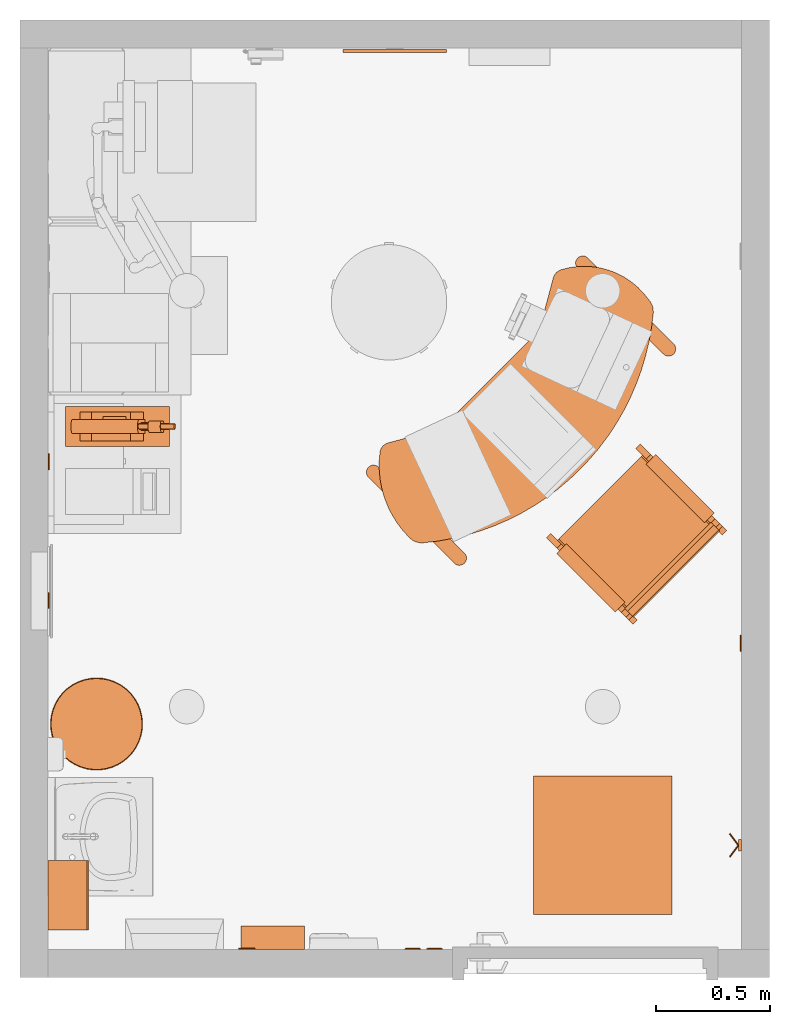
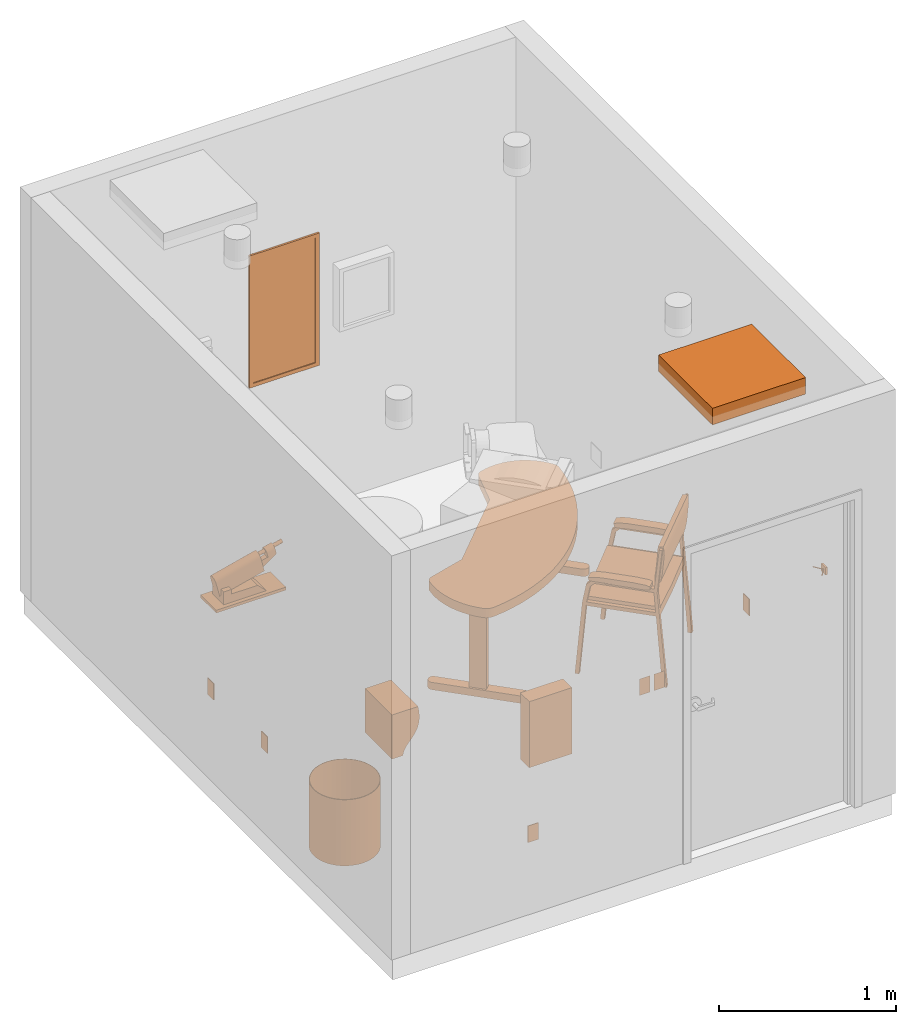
# One storey, part 5 of 12: 15 proxies.
"""IFC2X3 building model written with IfcOpenShell, lengths in feet."""

from ifc_helpers import new_model, entity, si_unit, converted_unit, derived_unit, direction, frame, frame_2d, origin, origin_2d_with_axis, place, context, subcontext, project, spatial, polyline, circle_curve, parameter, trimmed, segment, composite_curve, rectangle, circle, hollow_circle, outline, extrude, faceted_brep, source, transform, mapped, material, material_list, type_object, type_shapes, element, save


model = new_model("IFC2X3")

# Units and contexts
model_context = context("Model", 3, precision=0.0001, world=origin(), true_north=direction((6.12303176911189e-17, 1.0)))
body_context = subcontext(model_context, "Body", "Model", "MODEL_VIEW")
ifc_project = project(units=[converted_unit("LENGTHUNIT", "FOOT", entity("IfcRatioMeasure", 0.3048), si_unit("LENGTHUNIT", "METRE"), dimensions=[1, 0, 0, 0, 0, 0, 0]), converted_unit("AREAUNIT", "SQUARE FOOT", entity("IfcRatioMeasure", 0.09290304), si_unit("AREAUNIT", "SQUARE_METRE"), dimensions=[2, 0, 0, 0, 0, 0, 0]), converted_unit("VOLUMEUNIT", "CUBIC FOOT", entity("IfcRatioMeasure", 0.028316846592), si_unit("VOLUMEUNIT", "CUBIC_METRE"), dimensions=[3, 0, 0, 0, 0, 0, 0]), converted_unit("PLANEANGLEUNIT", "DEGREE", entity("IfcRatioMeasure", 0.0174532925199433), si_unit("PLANEANGLEUNIT", "RADIAN"), dimensions=[0, 0, 0, 0, 0, 0, 0]), si_unit("MASSUNIT", "GRAM", prefix="KILO"), derived_unit("MASSDENSITYUNIT", [(si_unit("MASSUNIT", "GRAM", prefix="KILO"), 1), (si_unit("LENGTHUNIT", "METRE"), -3)]), si_unit("TIMEUNIT", "SECOND"), si_unit("FREQUENCYUNIT", "HERTZ"), si_unit("THERMODYNAMICTEMPERATUREUNIT", "DEGREE_CELSIUS"), derived_unit("THERMALTRANSMITTANCEUNIT", [(si_unit("MASSUNIT", "GRAM", prefix="KILO"), 1), (si_unit("THERMODYNAMICTEMPERATUREUNIT", "KELVIN"), -1), (si_unit("TIMEUNIT", "SECOND"), -3)]), derived_unit("VOLUMETRICFLOWRATEUNIT", [(si_unit("LENGTHUNIT", "METRE"), 3), (si_unit("TIMEUNIT", "SECOND"), -1)]), si_unit("ELECTRICCURRENTUNIT", "AMPERE"), si_unit("ELECTRICVOLTAGEUNIT", "VOLT"), si_unit("POWERUNIT", "WATT"), si_unit("FORCEUNIT", "NEWTON"), si_unit("ILLUMINANCEUNIT", "LUX"), si_unit("LUMINOUSFLUXUNIT", "LUMEN"), si_unit("LUMINOUSINTENSITYUNIT", "CANDELA"), derived_unit("USERDEFINED", [(si_unit("MASSUNIT", "GRAM", prefix="KILO"), -1), (si_unit("LENGTHUNIT", "METRE"), -2), (si_unit("TIMEUNIT", "SECOND"), 3), (si_unit("LUMINOUSFLUXUNIT", "LUMEN"), 1)]), derived_unit("LINEARVELOCITYUNIT", [(si_unit("LENGTHUNIT", "METRE"), 1), (si_unit("TIMEUNIT", "SECOND"), -1)]), si_unit("PRESSUREUNIT", "PASCAL"), derived_unit("USERDEFINED", [(si_unit("LENGTHUNIT", "METRE"), -2), (si_unit("MASSUNIT", "GRAM", prefix="KILO"), 1), (si_unit("TIMEUNIT", "SECOND"), -2)])], contexts=[model_context])

# Site, building, storey, space
site_placement = place(None, origin())
site = spatial("IfcSite", under=ifc_project, at=site_placement, Name="Default", CompositionType="ELEMENT")
building_placement = place(site_placement, origin())
building = spatial("IfcBuilding", under=site, at=building_placement, Name="EYE CLINIC:  OPTHALMOLOGY AND OPTOMETRY SERVICES (Ch. 233)", CompositionType="ELEMENT")
storey_placement = place(building_placement, origin())
storey = spatial("IfcBuildingStorey", under=building, at=storey_placement, Name="DATUM", CompositionType="ELEMENT", Elevation=0.0)
space_placement = place(storey_placement, origin())
space = spatial("IfcSpace", under=storey, at=space_placement, Name="(OPPT2)", CompositionType="ELEMENT", InteriorOrExteriorSpace="INTERNAL")

# Proxies
building_element_proxy_type_1 = type_object("IfcBuildingElementProxyType", Name="A5145 - Hook, Garment, Double", PredefinedType="NOTDEFINED")
shared_shape_1 = source(origin(), body_context, "Body", "SweptSolid", [
    extrude(circle(Radius=0.0105952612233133, at=frame_2d((-1.64551454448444e-31, -4.16333634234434e-17), x_axis=(1.0, 0.0))), frame((-0.169086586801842, -0.168481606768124, 0.0833333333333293), z_axis=(0.799999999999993, 0.60000000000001, 0.0), x_axis=(0.60000000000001, -0.799999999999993, 0.0)), (0.0, 0.0, 1.0), 0.211358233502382),
    extrude(circle(Radius=0.0105952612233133, at=frame_2d((5.2041704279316e-19, 2.77555756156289e-17), x_axis=(1.0, 0.0))), frame((0.0, -0.0416666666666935, 0.083333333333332), z_axis=(0.799999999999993, -0.60000000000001, 0.0), x_axis=(-0.60000000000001, -0.799999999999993, 0.0)), (0.0, 0.0, 1.0), 0.211358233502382),
    extrude(rectangle(XDim=0.0416666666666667, YDim=0.166666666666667, at=origin_2d_with_axis()), frame((0.0, -0.0208333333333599, 0.0), z_axis=(0.0, 0.0, 1.0), x_axis=(0.0, 1.0, 0.0)), (0.0, 0.0, 1.0), 0.166666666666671),
])
type_shapes(building_element_proxy_type_1, [shared_shape_1])
proxy_1_placement = place(space_placement, frame((163.639769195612, 23.3076256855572, 4.0), z_axis=(0.0, 0.0, 1.0), x_axis=(0.0, -1.0, 0.0)))
element("IfcBuildingElementProxy", 1, at=proxy_1_placement, inside=space, type_object=building_element_proxy_type_1, Name="A5145 - Hook, Garment, Double:A5145 - Hook, Garment, Double", ObjectType="A5145 - Hook, Garment, Double", context=body_context, shape_type="MappedRepresentation", body=[
    mapped(shared_shape_1, transform((0.0, 0.0, 0.0), scale=1.0)),
])
building_element_proxy_type_2 = type_object("IfcBuildingElementProxyType", Name="24\" x 24\"", PredefinedType="NOTDEFINED")
shared_shape_2 = source(origin(), body_context, "Body", "SweptSolid", [
    extrude(rectangle(XDim=2.0, YDim=2.0, at=origin_2d_with_axis()), frame((0.0, 0.0, 8.0)), (0.0, 0.0, 1.0), 0.375),
])
type_shapes(building_element_proxy_type_2, [shared_shape_2])
proxy_2_placement = place(space_placement, frame((161.639769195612, 23.3076256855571, 1.0)))
element("IfcBuildingElementProxy", 2, at=proxy_2_placement, inside=space, type_object=building_element_proxy_type_2, Name="Return Register:24\" x 24\"", ObjectType="24\" x 24\"", context=body_context, shape_type="MappedRepresentation", body=[
    mapped(shared_shape_2, transform((0.0, 0.0, 0.0), scale=1.0)),
])
building_element_proxy_type_3 = type_object("IfcBuildingElementProxyType", Name="M5520 - Lensometer", PredefinedType="NOTDEFINED")
shared_shape_3 = source(origin(), body_context, "Body", "SweptSolid", [
    extrude(circle(Radius=0.166666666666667, at=frame_2d((0.0, -2.77555756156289e-16), x_axis=(1.0, 0.0))), frame((0.104166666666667, 0.0416666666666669, 0.4375), z_axis=(1.0, 0.0, 0.0), x_axis=(0.0, 1.0, 0.0)), (0.0, 0.0, 1.0), 0.0439213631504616),
    extrude(circle(Radius=0.0416666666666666, at=frame_2d((1.73472347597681e-18, 1.077244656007e-16), x_axis=(1.0, 0.0))), frame((0.00188577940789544, -0.202289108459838, 0.758268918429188), z_axis=(0.0, -0.970295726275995, 0.241921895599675), x_axis=(1.0, 0.0, 0.0)), (0.0, 0.0, 1.0), 0.643678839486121),
    extrude(outline(composite_curve([segment(polyline([(-0.0572916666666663, -0.083333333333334), (0.0572916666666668, -0.083333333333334)]), True, "CONTINUOUS"), segment(trimmed(circle_curve(frame_2d((0.0572916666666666, 0.0), x_axis=(0.0, -1.0)), 0.0833333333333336), [parameter(360.0)], [parameter(180.0)], True, "PARAMETER"), True, "CONTINUOUS"), segment(polyline([(0.0572916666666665, 0.0833333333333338), (-0.0572916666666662, 0.0833333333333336)]), True, "CONTINUOUS"), segment(polyline([(-0.0572916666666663, 0.0833333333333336), (-0.0572916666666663, -0.083333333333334)]), True, "CONTINUOUS")], self_intersect=False)), frame((0.0, -0.473607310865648, 0.749137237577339), z_axis=(0.0, -0.970295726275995, 0.241921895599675), x_axis=(0.0, 0.241921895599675, 0.970295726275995)), (0.0, 0.0, 1.0), 0.182011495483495),
    extrude(outline(polyline([(-0.166666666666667, -0.0508526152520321), (0.166666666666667, -0.0508526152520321), (0.166666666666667, -0.00918594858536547), (-0.166666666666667, 0.11089117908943), (-0.166666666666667, -0.0508526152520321)])), frame((-0.0576992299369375, -0.51465880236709, 0.647917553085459), z_axis=(1.0, 0.0, 0.0), x_axis=(0.0, -0.970295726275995, 0.241921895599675)), (0.0, 0.0, 1.0), 0.112888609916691),
    extrude(outline(composite_curve([segment(polyline([(-0.166666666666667, -0.104166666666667), (0.166666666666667, -0.104166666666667)]), True, "CONTINUOUS"), segment(trimmed(circle_curve(frame_2d((0.166666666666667, 0.0), x_axis=(0.0, -1.0)), 0.104166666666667), [parameter(360.0)], [parameter(180.0)], True, "PARAMETER"), True, "CONTINUOUS"), segment(polyline([(0.166666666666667, 0.104166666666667), (-0.166666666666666, 0.104166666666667)]), True, "CONTINUOUS"), segment(polyline([(-0.166666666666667, 0.104166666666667), (-0.166666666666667, -0.104166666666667)]), True, "CONTINUOUS")], self_intersect=False)), frame((0.0, 0.607176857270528, 0.366944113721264), z_axis=(0.0, -0.970295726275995, 0.241921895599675), x_axis=(0.0, 0.241921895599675, 0.970295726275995)), (0.0, 0.0, 1.0), 0.989819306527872),
    extrude(outline(polyline([(-0.329861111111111, -0.131944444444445), (-0.163194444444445, -0.131944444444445), (-0.163194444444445, -0.0277777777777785), (0.399305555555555, -0.0277777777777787), (0.586805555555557, 0.159722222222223), (-0.329861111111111, 0.159722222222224), (-0.329861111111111, -0.131944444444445)])), frame((-0.208333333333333, 0.211805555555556, 0.22528558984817), z_axis=(1.0, 0.0, 0.0), x_axis=(0.0, -1.0, 0.0)), (0.0, 0.0, 1.0), 0.416666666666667),
    extrude(rectangle(XDim=0.583333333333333, YDim=1.5, at=origin_2d_with_axis()), frame((0.0, 0.0, 0.0), z_axis=(0.0, 0.0, 1.0), x_axis=(-1.0, 0.0, 0.0)), (0.0, 0.0, 1.0), 0.0655633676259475),
])
type_shapes(building_element_proxy_type_3, [shared_shape_3])
proxy_3_placement = place(space_placement, frame((154.639769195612, 29.3492923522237, 2.99921907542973), z_axis=(0.0, 0.0, 1.0), x_axis=(0.0, 1.0, 0.0)))
element("IfcBuildingElementProxy", 3, at=proxy_3_placement, inside=space, type_object=building_element_proxy_type_3, Name="M5520 - Lensometer:M5520 - Lensometer", ObjectType="M5520 - Lensometer", context=body_context, shape_type="MappedRepresentation", body=[
    mapped(shared_shape_3, transform((0.0, 0.0, 0.0), scale=1.0)),
])
building_element_proxy_type_4 = type_object("IfcBuildingElementProxyType", Name="F0205 - Side Chair with Arms", PredefinedType="NOTDEFINED")
shared_shape_4 = source(origin(), body_context, "Body", "SweptSolid", [
    extrude(outline(polyline([(-0.104007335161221, -0.374369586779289), (-0.027711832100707, -0.374369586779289), (-0.0197350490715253, -0.338348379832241), (0.00592434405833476, -0.182113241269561), (0.0162560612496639, -0.135457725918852), (0.0457826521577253, -0.00212284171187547), (0.0856087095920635, 0.177721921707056), (0.112798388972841, 0.276572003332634), (0.120257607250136, 0.307674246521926), (0.129202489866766, 0.415216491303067), (0.045581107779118, 0.433734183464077), (0.0167028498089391, 0.395704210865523), (-0.0364083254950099, 0.222671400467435), (-0.125070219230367, -0.177704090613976), (-0.13682888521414, -0.27538652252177), (-0.128352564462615, -0.36942248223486), (-0.104007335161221, -0.374369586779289)])), frame((-0.891159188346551, -0.878769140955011, 2.73061112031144), z_axis=(0.0, 1.0, 0.0), x_axis=(0.991475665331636, 0.0, -0.130291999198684)), (0.0, 0.0, 1.0), 1.75919993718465),
    extrude(outline(polyline([(0.0907668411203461, -0.842703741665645), (0.261538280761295, -0.842703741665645), (0.265730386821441, -0.773999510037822), (0.127479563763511, 0.0287496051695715), (-0.0923338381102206, 0.813085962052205), (-0.125373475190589, 0.873420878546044), (-0.279635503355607, 0.800086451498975), (-0.270660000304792, 0.752608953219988), (-0.0560029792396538, -0.0126173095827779), (0.0784907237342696, -0.795927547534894), (0.0907668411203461, -0.842703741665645)])), frame((-0.90556950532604, 0.000822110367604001, 1.62079321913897), z_axis=(1.0, 0.0, 0.0), x_axis=(0.0, -0.219936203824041, -0.975514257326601)), (0.0, 0.0, 1.0), 1.47211210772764),
    extrude(outline(polyline([(-0.552031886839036, -0.234422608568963), (-0.484734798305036, -0.234422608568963), (-0.233837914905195, -0.160903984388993), (0.324339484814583, 0.0422559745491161), (0.453697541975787, 0.101150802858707), (0.564536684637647, 0.176717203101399), (0.51204038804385, 0.250193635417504), (0.420212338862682, 0.216770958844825), (0.254858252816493, 0.145732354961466), (-0.246233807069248, -0.0366502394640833), (-0.436544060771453, -0.0986810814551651), (-0.576302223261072, -0.167740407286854), (-0.552031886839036, -0.234422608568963)])), frame((-0.1510824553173, -1.00916916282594, 2.22827697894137), z_axis=(0.0, 1.0, 0.0), x_axis=(0.939692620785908, 0.0, 0.34202014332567)), (0.0, 0.0, 1.0), 0.198199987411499),
    extrude(outline(polyline([(-0.525375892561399, -0.221085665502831), (-0.458078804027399, -0.221085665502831), (-0.207181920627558, -0.147567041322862), (0.350995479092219, 0.0555929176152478), (0.480353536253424, 0.114487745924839), (0.591192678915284, 0.190054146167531), (0.551062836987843, 0.246221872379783), (0.114629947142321, 0.0873732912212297), (0.281514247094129, 0.159069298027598), (-0.219577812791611, -0.0233132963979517), (-0.409888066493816, -0.0853441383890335), (-0.549646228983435, -0.154403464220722), (-0.525375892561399, -0.221085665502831)])), frame((-0.180692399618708, 0.814330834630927, 2.23169271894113), z_axis=(0.0, 1.0, 0.0), x_axis=(0.939692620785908, 0.0, 0.34202014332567)), (0.0, 0.0, 1.0), 0.196499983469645),
    extrude(outline(polyline([(0.0166377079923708, -0.666422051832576), (0.099971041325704, -0.666422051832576), (-0.0172324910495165, 0.673220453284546), (-0.0993762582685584, 0.659623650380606), (0.0166377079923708, -0.666422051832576)])), frame((-0.182442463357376, -0.954369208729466, 1.61480726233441), z_axis=(0.0, 1.0, 0.0), x_axis=(0.0871557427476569, 0.0, -0.996194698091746)), (0.0, 0.0, 1.0), 0.0833333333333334),
    extrude(outline(polyline([(0.0166377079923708, -0.666422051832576), (0.099971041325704, -0.666422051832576), (-0.0172324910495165, 0.673220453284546), (-0.0993762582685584, 0.659623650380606), (0.0166377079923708, -0.666422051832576)])), frame((-0.182442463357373, 0.867430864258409, 1.61480726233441), z_axis=(0.0, 1.0, 0.0), x_axis=(0.0871557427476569, 0.0, -0.996194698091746)), (0.0, 0.0, 1.0), 0.0833333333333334),
    extrude(outline(polyline([(0.811855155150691, -1.61770011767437), (0.895188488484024, -1.61770011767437), (0.71143329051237, 0.489199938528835), (0.806416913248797, 1.46713632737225), (0.751033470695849, 1.46713632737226), (0.656855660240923, 0.571094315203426), (-0.516612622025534, 0.571094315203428), (-0.653571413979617, 0.441277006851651), (-0.728375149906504, 0.0391907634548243), (-0.871611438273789, -1.61770011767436), (-0.791571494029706, -1.61770011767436), (-0.646611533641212, 0.0391998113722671), (-0.578172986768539, 0.407071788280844), (-0.496044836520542, 0.48919993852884), (0.649788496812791, 0.489199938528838), (0.811855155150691, -1.61770011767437)])), frame((-0.163768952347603, -0.954369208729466, 1.61770011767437), z_axis=(0.0, 1.0, 0.0), x_axis=(-1.0, 0.0, 0.0)), (0.0, 0.0, 1.0), 0.0885709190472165),
    extrude(outline(polyline([(0.811855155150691, -1.61770011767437), (0.895188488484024, -1.61770011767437), (0.71143329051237, 0.489199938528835), (0.806416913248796, 1.46713632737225), (0.751033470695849, 1.46713632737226), (0.656855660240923, 0.571094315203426), (-0.516612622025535, 0.571094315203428), (-0.653571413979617, 0.441277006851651), (-0.728375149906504, 0.0391907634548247), (-0.871611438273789, -1.61770011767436), (-0.791571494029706, -1.61770011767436), (-0.646611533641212, 0.0391998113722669), (-0.578172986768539, 0.407071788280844), (-0.496044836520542, 0.48919993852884), (0.649788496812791, 0.489199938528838), (0.811855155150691, -1.61770011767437)])), frame((-0.1637689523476, 0.867430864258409, 1.61770011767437), z_axis=(0.0, 1.0, 0.0), x_axis=(-1.0, 0.0, 0.0)), (0.0, 0.0, 1.0), 0.0885709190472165),
])
type_shapes(building_element_proxy_type_4, [shared_shape_4])
proxy_4_placement = place(space_placement, frame((162.004242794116, 27.9214950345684, 0.0), z_axis=(0.0, 0.0, 1.0), x_axis=(-0.707106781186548, 0.707106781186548, 0.0)))
element("IfcBuildingElementProxy", 4, at=proxy_4_placement, inside=space, type_object=building_element_proxy_type_4, Name="F0205 - Side Chair with Arms:F0205 - Side Chair with Arms", ObjectType="F0205 - Side Chair with Arms", context=body_context, shape_type="MappedRepresentation", body=[
    mapped(shared_shape_4, transform((0.0, 0.0, 0.0), scale=1.0)),
])
ifc_material_1 = material(Name="Plastic - White")
building_element_proxy_type_5 = type_object("IfcBuildingElementProxyType", Name="Single", PredefinedType="NOTDEFINED", material=ifc_material_1)
shared_shape_5 = source(origin(), body_context, "Body", "Brep", [
    faceted_brep([(0.0156250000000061, 0.0156249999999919, 0.359375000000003), (0.213541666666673, 0.0156249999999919, 0.359375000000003), (0.213541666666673, 0.0156249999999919, 0.0156250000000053), (0.0156250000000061, 0.0156249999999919, 0.0156250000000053), (0.0, 0.0, 0.375), (0.0, 0.0, 0.0), (0.229166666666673, 0.0, 0.0), (0.229166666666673, 0.0, 0.375)], [[[0, 1, 2, 3]], [[4, 5, 6, 7]], [[4, 7, 1, 0]], [[7, 6, 2, 1]], [[6, 5, 3, 2]], [[5, 4, 0, 3]]]),
])
type_shapes(building_element_proxy_type_5, [shared_shape_5])
for number, where, name in (
    (5, (159.098102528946, 21.807625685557, 3.8125), "Switch-Single:Single"),
    (6, (158.785602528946, 21.8076256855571, 3.8125), "Switch-Single:Single"),
):
    element("IfcBuildingElementProxy", number, at=place(space_placement, frame(where)), inside=space, type_object=building_element_proxy_type_5, material=ifc_material_1, Name=name, ObjectType="Single", context=body_context, shape_type="MappedRepresentation", body=[
        mapped(shared_shape_5, transform((0.0, 0.0, 0.0), scale=1.0)),
    ])
building_element_proxy_type_6 = type_object("IfcBuildingElementProxyType", Name="A5107 - Dispenser, Glove, Surgical-Examination, Wall Mntd", PredefinedType="NOTDEFINED")
shared_shape_6 = source(origin(), body_context, "Body", "SweptSolid", [
    extrude(rectangle(XDim=0.333333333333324, YDim=0.916666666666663, at=frame_2d((-1.38777878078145e-17, 0.0), x_axis=(1.0, 0.0))), frame((0.0, 0.166666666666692, 0.0), z_axis=(0.0, 0.0, 1.0), x_axis=(0.0, 1.0, 0.0)), (0.0, 0.0, 1.0), 1.5),
])
type_shapes(building_element_proxy_type_6, [shared_shape_6])
proxy_5_placement = place(space_placement, frame((156.879352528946, 21.807625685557, 3.0)))
element("IfcBuildingElementProxy", 7, at=proxy_5_placement, inside=space, type_object=building_element_proxy_type_6, Name="A5107 - Dispenser, Glove, Surgical-Examination, Wall Mntd:A5107 - Dispenser, Glove, Surgical-Examination, Wall Mntd", ObjectType="A5107 - Dispenser, Glove, Surgical-Examination, Wall Mntd", context=body_context, shape_type="MappedRepresentation", body=[
    mapped(shared_shape_6, transform((0.0, 0.0, 0.0), scale=1.0)),
])
building_element_proxy_type_7 = type_object("IfcBuildingElementProxyType", Name="A5082 - Dispenser, Paper Towel, Sensor, Hands Free", PredefinedType="NOTDEFINED")
shared_shape_7 = source(origin(), body_context, "Body", "SweptSolid", [
    extrude(outline(polyline([(-0.571680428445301, -0.394840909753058), (0.428319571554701, -0.394840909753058), (0.4283195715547, -0.159932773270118), (0.376442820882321, -0.151554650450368), (0.329481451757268, -0.136660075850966), (0.2864326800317, -0.116260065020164), (0.246293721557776, -0.0913656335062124), (0.208061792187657, -0.0629877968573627), (0.1707341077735, -0.0321375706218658), (0.133307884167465, 0.000174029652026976), (0.0947803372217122, 0.0329359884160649), (0.0541486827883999, 0.0651372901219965), (0.0104101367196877, 0.0957669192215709), (-0.0374380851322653, 0.123813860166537), (-0.0903987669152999, 0.148267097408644), (-0.149474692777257, 0.168115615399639), (-0.215668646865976, 0.182348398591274), (-0.2899834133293, 0.189954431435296), (-0.373421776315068, 0.189922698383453), (-0.466986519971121, 0.181242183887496), (-0.571680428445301, 0.162901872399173), (-0.571680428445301, -0.394840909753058)])), frame((0.0, 0.394840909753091, 0.428319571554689), z_axis=(1.0, 0.0, 0.0), x_axis=(0.0, 0.0, -1.0)), (0.0, 0.0, 1.0), 1.0),
])
type_shapes(building_element_proxy_type_7, [shared_shape_7])
proxy_6_placement = place(space_placement, frame((153.639769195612, 23.0888756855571, 4.0), z_axis=(0.0, 0.0, 1.0), x_axis=(0.0, -1.0, 0.0)))
element("IfcBuildingElementProxy", 8, at=proxy_6_placement, inside=space, type_object=building_element_proxy_type_7, Name="A5082 - Dispenser, Paper Towel, Sensor, Hands Free:A5082 - Dispenser, Paper Towel, Sensor, Hands Free", ObjectType="A5082 - Dispenser, Paper Towel, Sensor, Hands Free", context=body_context, shape_type="MappedRepresentation", body=[
    mapped(shared_shape_7, transform((0.0, 0.0, 0.0), scale=1.0)),
])
building_element_proxy_type_8 = type_object("IfcBuildingElementProxyType", Name="F2000 - Basket, Wastepaper 16\"x 16\"", PredefinedType="NOTDEFINED")
shared_shape_8 = source(origin(), body_context, "Body", "SweptSolid", [
    extrude(circle(Radius=0.666666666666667, at=frame_2d((0.0, -1.07702971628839e-15), x_axis=(1.0, 0.0))), origin(), (0.0, 0.0, 1.0), 0.0104166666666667),
    extrude(hollow_circle(Radius=0.666666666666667, WallThickness=0.0104166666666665, at=frame_2d((0.0, -1.07702971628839e-15), x_axis=(1.0, 0.0))), frame((0.0, 0.0, 0.0104166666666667)), (0.0, 0.0, 1.0), 1.48958333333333),
])
type_shapes(building_element_proxy_type_8, [shared_shape_8])
proxy_7_placement = place(space_placement, frame((154.337685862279, 25.0576256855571, 0.0), z_axis=(0.0, 0.0, 1.0), x_axis=(0.0, 1.0, 0.0)))
element("IfcBuildingElementProxy", 9, at=proxy_7_placement, inside=space, type_object=building_element_proxy_type_8, Name="F2000 - Basket, Wastepaper, Fire Resistant:F2000 - Basket, Wastepaper 16\"x 16\"", ObjectType="F2000 - Basket, Wastepaper 16\"x 16\"", context=body_context, shape_type="MappedRepresentation", body=[
    mapped(shared_shape_8, transform((0.0, 0.0, 0.0), scale=1.0)),
])
ifc_material_2 = material(Name="mirror glass")
ifc_material_3 = material(Name="Stainless Steel")
ifc_material_list_1 = material_list([ifc_material_2, ifc_material_3])
ifc_material_list_2 = material_list([ifc_material_2, ifc_material_3])
building_element_proxy_type_9 = type_object("IfcBuildingElementProxyType", Name="A1066 - Mirror, Float Glass", PredefinedType="NOTDEFINED", material=ifc_material_list_2)
shared_shape_9 = source(origin(), body_context, "Body", "SweptSolid", [
    extrude(rectangle(XDim=0.0208333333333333, YDim=1.33333333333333, at=origin_2d_with_axis()), frame((0.0, -0.0104166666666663, 3.33333333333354), z_axis=(0.0, 0.0, 1.0), x_axis=(0.0, 1.0, 0.0)), (0.0, 0.0, 1.0), 2.8333333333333),
    extrude(outline(polyline([(-0.75, -1.49999999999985), (0.75, -1.49999999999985), (0.75, 1.49999999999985), (-0.75, 1.49999999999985), (-0.75, -1.49999999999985)]), holes=[polyline([(-0.666666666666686, 1.4166666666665), (0.666666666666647, 1.41666666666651), (0.666666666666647, -1.41666666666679), (-0.666666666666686, -1.41666666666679), (-0.666666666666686, 1.4166666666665)])]), frame((0.0, -0.0416666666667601, 4.75000000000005), z_axis=(0.0, 1.0, 0.0), x_axis=(1.0, 0.0, 0.0)), (0.0, 0.0, 1.0), 0.0416666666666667),
])
type_shapes(building_element_proxy_type_9, [shared_shape_9])
proxy_8_placement = place(space_placement, frame((158.639769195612, 34.7867923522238, 0.0)))
element("IfcBuildingElementProxy", 10, at=proxy_8_placement, inside=space, type_object=building_element_proxy_type_9, material=ifc_material_list_1, Name="A1066 - Mirror, Float Glass:A1066 - Mirror, Float Glass", ObjectType="A1066 - Mirror, Float Glass", context=body_context, shape_type="MappedRepresentation", body=[
    mapped(shared_shape_9, transform((0.0, 0.0, 0.0), scale=1.0)),
])
building_element_proxy_type_10 = type_object("IfcBuildingElementProxyType", Name="Duplex", PredefinedType="NOTDEFINED")
shared_shape_10 = source(origin(), body_context, "Body", "SweptSolid", [
    extrude(rectangle(XDim=0.0156249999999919, YDim=0.229166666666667, at=origin_2d_with_axis()), frame((0.0, 0.210937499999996, 0.0), z_axis=(0.0, 0.0, 1.0), x_axis=(0.0, 1.0, 0.0)), (0.0, 0.0, 1.0), 0.37500000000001),
])
type_shapes(building_element_proxy_type_10, [shared_shape_10])
proxy_9_placement = place(space_placement, frame((156.504352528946, 21.6045006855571, 1.3125)))
element("IfcBuildingElementProxy", 11, at=proxy_9_placement, inside=space, type_object=building_element_proxy_type_10, Name="Outlet, Duplex, Wall:Duplex", ObjectType="Duplex", context=body_context, shape_type="MappedRepresentation", body=[
    mapped(shared_shape_10, transform((0.0, 0.0, 0.0), scale=1.0)),
])
for number, where, z_axis, x_axis, name in (
    (12, (153.436644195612, 26.8388756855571, 1.3125), (0.0, 0.0, 1.0), (0.0, -1.0, 0.0), "Outlet, Duplex, Wall:Duplex"),
    (13, (163.842894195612, 26.2242923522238, 1.3125), (0.0, 0.0, 1.0), (0.0, 1.0, 0.0), "Outlet, Duplex, Wall:Duplex"),
    (14, (153.436644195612, 28.8388756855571, 1.3125), (0.0, 0.0, 1.0), (0.0, -1.0, 0.0), "Outlet, Duplex, Wall:Duplex"),
):
    element("IfcBuildingElementProxy", number, at=place(space_placement, frame(where, z_axis=z_axis, x_axis=x_axis)), inside=space, type_object=building_element_proxy_type_10, Name=name, ObjectType="Duplex", context=body_context, shape_type="MappedRepresentation", body=[
        mapped(shared_shape_10, transform((0.0, 0.0, 0.0), scale=1.0)),
    ])
building_element_proxy_type_11 = type_object("IfcBuildingElementProxyType", Name="Generic Models 20", PredefinedType="NOTDEFINED")
shared_shape_11 = source(origin(), body_context, "Body", "SweptSolid", [
    extrude(rectangle(XDim=0.333333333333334, YDim=0.125000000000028, at=frame_2d((4.44089209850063e-16, 0.0), x_axis=(1.0, 0.0))), frame((160.412827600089, 4.40813396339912, 0.166666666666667), z_axis=(0.0, 0.0, 1.0), x_axis=(0.0, 1.0, 0.0)), (0.0, 0.0, 1.0), 1.79199387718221),
    extrude(rectangle(XDim=0.125000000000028, YDim=0.333333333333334, at=frame_2d((0.0, -4.44089209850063e-16), x_axis=(1.0, 0.0))), frame((156.14489204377, 4.40813396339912, 0.166666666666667)), (0.0, 0.0, 1.0), 1.83333333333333),
    extrude(outline(composite_curve([segment(polyline([(-0.875000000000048, -0.104166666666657), (0.875000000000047, -0.104166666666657)]), True, "CONTINUOUS"), segment(trimmed(circle_curve(frame_2d((0.875000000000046, 0.0), x_axis=(0.0, 1.0)), 0.104166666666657), [parameter(180.0)], [parameter(359.999999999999)], True, "PARAMETER"), True, "CONTINUOUS"), segment(polyline([(0.875000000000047, 0.104166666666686), (-0.875000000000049, 0.104166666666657)]), True, "CONTINUOUS"), segment(trimmed(circle_curve(frame_2d((-0.875000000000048, 0.0), x_axis=(0.0, 1.0)), 0.104166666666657), [parameter(0.0)], [parameter(180.0)], True, "PARAMETER"), True, "CONTINUOUS")], self_intersect=False)), frame((156.14489204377, 4.40813396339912, 0.0), z_axis=(0.0, 0.0, 1.0), x_axis=(0.0, -1.0, 0.0)), (0.0, 0.0, 1.0), 0.166666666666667),
    extrude(outline(composite_curve([segment(trimmed(circle_curve(frame_2d((0.0, -0.875000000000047), x_axis=(1.0, 0.0)), 0.104166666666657), [parameter(180.0)], [parameter(359.999999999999)], True, "PARAMETER"), True, "CONTINUOUS"), segment(polyline([(0.104166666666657, -0.875000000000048), (0.104166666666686, 0.875000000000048)]), True, "CONTINUOUS"), segment(trimmed(circle_curve(frame_2d((0.0, 0.875000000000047), x_axis=(1.0, 0.0)), 0.104166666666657), [parameter(0.0)], [parameter(180.0)], True, "PARAMETER"), True, "CONTINUOUS"), segment(polyline([(-0.104166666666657, 0.875000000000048), (-0.104166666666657, -0.875000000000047)]), True, "CONTINUOUS")], self_intersect=False)), frame((160.412827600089, 4.40813396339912, 0.0), z_axis=(0.0, 0.0, 1.0), x_axis=(-1.0, 0.0, 0.0)), (0.0, 0.0, 1.0), 0.166666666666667),
    extrude(outline(composite_curve([segment(trimmed(circle_curve(frame_2d((2.18482847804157, -0.594418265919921), x_axis=(1.0, 0.0)), 0.25), [parameter(309.813396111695)], [parameter(359.326469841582)], True, "PARAMETER"), True, "CONTINUOUS"), segment(trimmed(circle_curve(frame_2d((1.30826974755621, -0.412201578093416), x_axis=(1.0, 0.0)), 1.14165590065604), [parameter(350.666459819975)], [parameter(61.8861870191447)], True, "PARAMETER"), True, "CONTINUOUS"), segment(trimmed(circle_curve(frame_2d((1.76770859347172, 0.447751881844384), x_axis=(1.0, 0.0)), 0.166666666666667), [parameter(61.8861870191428)], [parameter(120.000000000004)], True, "PARAMETER"), True, "CONTINUOUS"), segment(polyline([(1.68437526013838, 0.592089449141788), (1.0, 0.196965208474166)]), True, "CONTINUOUS"), segment(polyline([(1.0, 0.196965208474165), (-1.0, 0.196965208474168)]), True, "CONTINUOUS"), segment(polyline([(-1.0, 0.196965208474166), (-1.68437526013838, 0.592089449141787)]), True, "CONTINUOUS"), segment(trimmed(circle_curve(frame_2d((-1.76770859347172, 0.447751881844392), x_axis=(1.0, 0.0)), 0.166666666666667), [parameter(59.9999999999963)], [parameter(118.113812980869)], True, "PARAMETER"), True, "CONTINUOUS"), segment(trimmed(circle_curve(frame_2d((-0.968168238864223, -0.580115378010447), x_axis=(1.0, 0.0)), 1.46674430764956), [parameter(126.77382300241)], [parameter(180.673530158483)], True, "PARAMETER"), True, "CONTINUOUS"), segment(trimmed(circle_curve(frame_2d((-2.18482847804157, -0.594418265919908), x_axis=(1.0, 0.0)), 0.25), [parameter(180.673530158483)], [parameter(230.186603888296)], True, "PARAMETER"), True, "CONTINUOUS"), segment(trimmed(circle_curve(frame_2d((0.0, 2.02664796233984), x_axis=(1.0, 0.0)), 3.66225199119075), [parameter(230.1866038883)], [parameter(309.813396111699)], True, "PARAMETER"), True, "CONTINUOUS")], self_intersect=False)), frame((158.27885982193, 4.84229208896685, 1.95833333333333)), (0.0, 0.0, 1.0), 0.208333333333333),
])
type_shapes(building_element_proxy_type_11, [shared_shape_11])
proxy_10_placement = place(space_placement, frame((51.659080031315, -85.4583416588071, 0.0), z_axis=(0.0, 0.0, 1.0), x_axis=(0.707106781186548, 0.707106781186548, 0.0)))
element("IfcBuildingElementProxy", 15, at=proxy_10_placement, inside=space, type_object=building_element_proxy_type_11, Name="Generic Models 20:Generic Models 20", ObjectType="Generic Models 20", context=body_context, shape_type="MappedRepresentation", body=[
    mapped(shared_shape_11, transform((0.0, 0.0, 0.0), scale=1.0)),
])

save(model, "model.ifc")
